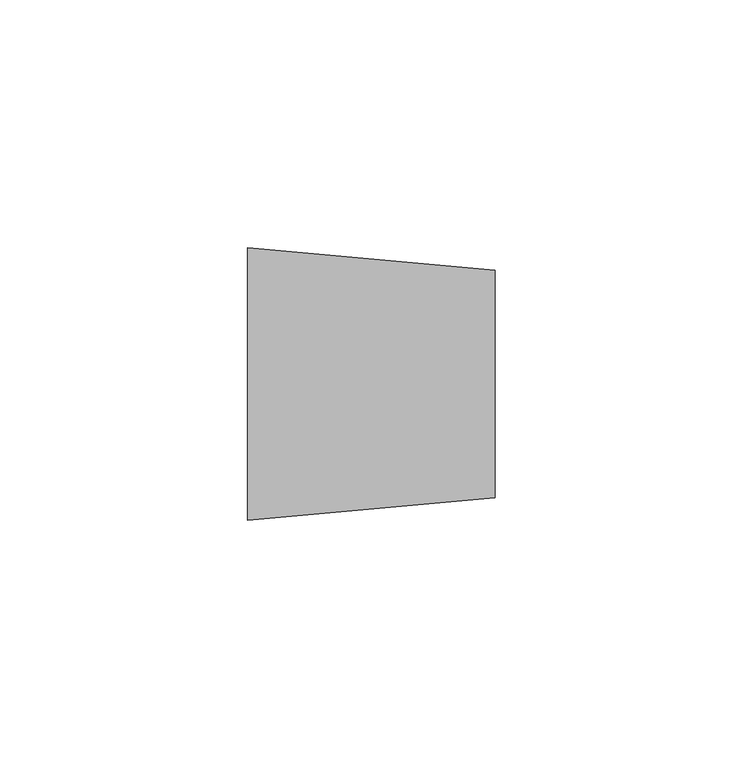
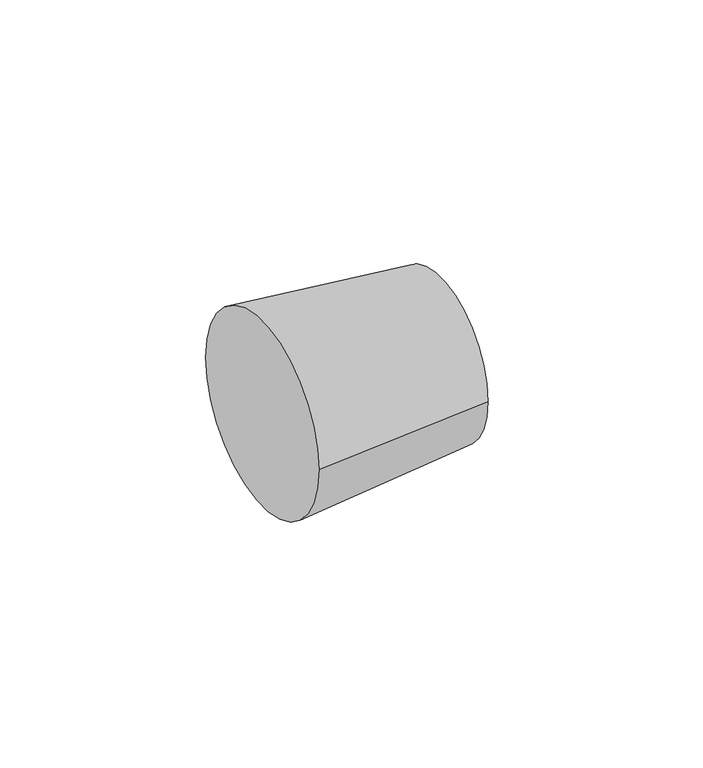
"""IFC4 building model written with IfcOpenShell, lengths in millimetres: pipe fitting geometry, ADSK_ЧугунРезьба_МуфтаПереходная_ГОСТ8957-75 : Неоцинкованные."""

from ifc_helpers import new_model, si_unit, frame, origin, place, context, project, spatial, polyline, circle_curve, source, transform, mapped, element, save
from ifc_brep_helpers import plane_surface, revolved_surface, advanced_brep


def pipe_fitting_10138c0c(model_context):
    return source(origin(), model_context, "Body", "AdvancedBrep", [
        advanced_brep(
        [(50.0, -23.0, 0.0), (50.0, 23.0, 0.0), (0.0, -27.5, 0.0), (0.0, 27.5, 0.0)],
        [
            (0, 1, circle_curve(frame((50.0, 0.0, 0.0), z_axis=(1.0, 0.0, 0.0), x_axis=(0.0, -1.0, 0.0)), 23.0)),
            (1, 0, circle_curve(frame((50.0, 0.0, 0.0), z_axis=(1.0, 0.0, 0.0), x_axis=(0.0, 1.0, 0.0)), 23.0)),
            (2, 3, circle_curve(frame((0.0, 0.0, 0.0), z_axis=(-1.0, 0.0, 0.0), x_axis=(0.0, 1.0, 0.0)), 27.5)),
            (3, 2, circle_curve(frame((0.0, 0.0, 0.0), z_axis=(-1.0, 0.0, 0.0), x_axis=(0.0, -1.0, 0.0)), 27.5)),
            (3, 1),
            (0, 2),
        ],
        [
            plane_surface(frame((50.0, 0.0, 0.0), z_axis=(1.0, 0.0, 0.0), x_axis=(0.0, 0.0, -1.0))),
            plane_surface(frame((0.0, 0.0, 0.0), z_axis=(-1.0, 0.0, 0.0), x_axis=(0.0, 0.0, -1.0))),
            revolved_surface(polyline([(50.0, -23.000000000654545, 0.0), (0.0, -27.5, 0.0)]), (305.5555556, 0.0, 0.0), (-1.0, 0.0, 0.0)),
            revolved_surface(polyline([(50.0, 23.000000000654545, 0.0), (0.0, 27.5, 0.0)]), (305.5555556, 0.0, 0.0), (-1.0, 0.0, 0.0)),
        ],
        [
            (0, [[1, 2]]),
            (1, [[3, 4]]),
            (2, [[-4, 5, -1, 6]]),
            (3, [[-3, -6, -2, -5]]),
        ],
    ),
    ])


if __name__ == "__main__":
    model = new_model("IFC4")
    model_context = context("Model", 3, world=origin())
    ifc_project = project(units=[si_unit("LENGTHUNIT", "METRE", prefix="MILLI")], contexts=[model_context])
    site = spatial("IfcSite", under=ifc_project)
    building = spatial("IfcBuilding", under=site)
    placement = place(None, origin())
    pipe_fitting_shape = pipe_fitting_10138c0c(model_context)
    element("IfcPipeFitting", 1, ObjectType="ADSK_ЧугунРезьба_МуфтаПереходная_ГОСТ8957-75 : Неоцинкованные", at=placement, inside=building, context=model_context, shape_type="MappedRepresentation", body=[
        mapped(pipe_fitting_shape, transform((0.0, 0.0, 0.0), x_axis=(1.0, 0.0, 0.0), y_axis=(0.0, 1.0, 0.0), z_axis=(0.0, 0.0, 1.0))),
    ])
    save(model, "model.ifc")
